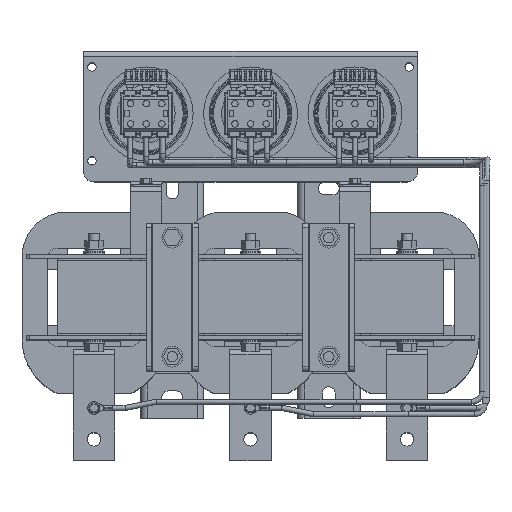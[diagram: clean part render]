
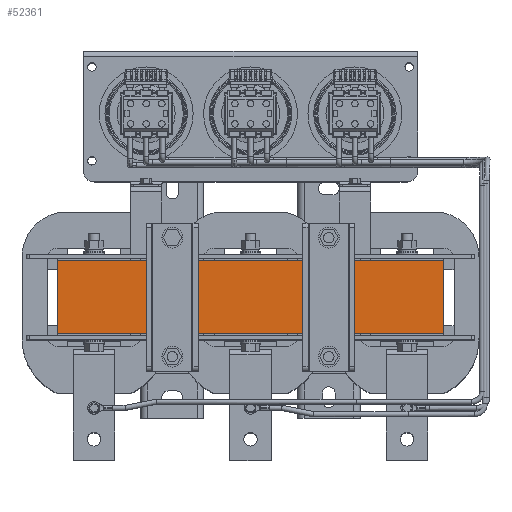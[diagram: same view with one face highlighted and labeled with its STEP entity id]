
A CAD part, top view. The second image highlights one B-rep face of the part: STEP entity #52361.
In plain terms, the highlighted planar face has unit normal (0, 0, 1).
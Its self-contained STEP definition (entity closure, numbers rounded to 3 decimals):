
#138 = CARTESIAN_POINT ( 'NONE',  ( 185., -199., 460. ) ) ;
#889 = DIRECTION ( 'NONE',  ( 1., 0., 0. ) ) ;
#2522 = VECTOR ( 'NONE', #4548, 1000. ) ;
#4548 = DIRECTION ( 'NONE',  ( 0., -1., 0. ) ) ;
#9822 = ORIENTED_EDGE ( 'NONE', *, *, #16847, .T. ) ;
#11722 = DIRECTION ( 'NONE',  ( 0., -1., 0. ) ) ;
#12609 = CARTESIAN_POINT ( 'NONE',  ( 185., -107., 460. ) ) ;
#13212 = CARTESIAN_POINT ( 'NONE',  ( -200., -37., 460. ) ) ;
#16847 = EDGE_CURVE ( 'NONE', #17673, #29939, #34348, .T. ) ;
#17673 = VERTEX_POINT ( 'NONE', #32442 ) ;
#20038 = VECTOR ( 'NONE', #889, 1000. ) ;
#20525 = AXIS2_PLACEMENT_3D ( 'NONE', #49645, #38540, #44471 ) ;
#22009 = LINE ( 'NONE', #67718, #37082 ) ;
#22724 = FACE_OUTER_BOUND ( 'NONE', #72828, .T. ) ;
#27936 = ORIENTED_EDGE ( 'NONE', *, *, #46326, .T. ) ;
#28605 = ORIENTED_EDGE ( 'NONE', *, *, #32261, .F. ) ;
#29939 = VERTEX_POINT ( 'NONE', #12609 ) ;
#32261 = EDGE_CURVE ( 'NONE', #64020, #29939, #50586, .T. ) ;
#32442 = CARTESIAN_POINT ( 'NONE',  ( -185., -107., 460. ) ) ;
#33728 = PLANE ( 'NONE',  #20525 ) ;
#33960 = VECTOR ( 'NONE', #68509, 1000. ) ;
#34348 = LINE ( 'NONE', #35082, #20038 ) ;
#35082 = CARTESIAN_POINT ( 'NONE',  ( 0., -107., 460. ) ) ;
#37082 = VECTOR ( 'NONE', #11722, 1000. ) ;
#38540 = DIRECTION ( 'NONE',  ( 0., 0., 1. ) ) ;
#44471 = DIRECTION ( 'NONE',  ( 1., 0., 0. ) ) ;
#46326 = EDGE_CURVE ( 'NONE', #64020, #67683, #64394, .T. ) ;
#49645 = CARTESIAN_POINT ( 'NONE',  ( -200., -199., 460. ) ) ;
#50586 = LINE ( 'NONE', #138, #2522 ) ;
#52361 = ADVANCED_FACE ( 'NONE', ( #22724 ), #33728, .T. ) ;
#53459 = EDGE_CURVE ( 'NONE', #67683, #17673, #22009, .T. ) ;
#55984 = CARTESIAN_POINT ( 'NONE',  ( 185., -37., 460. ) ) ;
#60240 = ORIENTED_EDGE ( 'NONE', *, *, #53459, .T. ) ;
#64020 = VERTEX_POINT ( 'NONE', #55984 ) ;
#64394 = LINE ( 'NONE', #13212, #33960 ) ;
#67683 = VERTEX_POINT ( 'NONE', #68349 ) ;
#67718 = CARTESIAN_POINT ( 'NONE',  ( -185., -199., 460. ) ) ;
#68349 = CARTESIAN_POINT ( 'NONE',  ( -185., -37., 460. ) ) ;
#68509 = DIRECTION ( 'NONE',  ( -1., 0., 0. ) ) ;
#72828 = EDGE_LOOP ( 'NONE', ( #9822, #28605, #27936, #60240 ) ) ;
